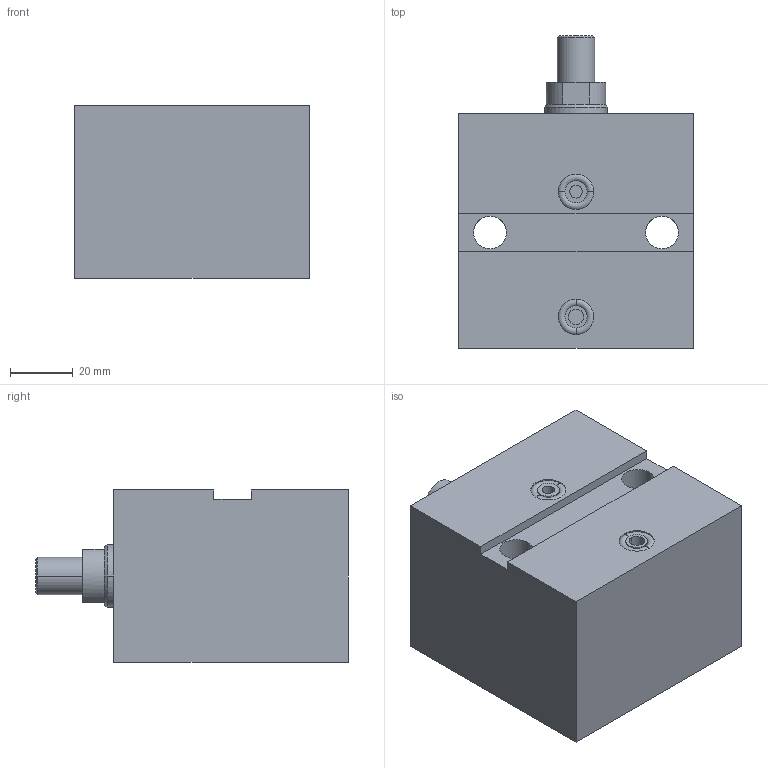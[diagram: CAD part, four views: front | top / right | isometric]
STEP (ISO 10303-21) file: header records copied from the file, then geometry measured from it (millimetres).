
FILE_DESCRIPTION (( 'STEP AP203' ), '1' );
FILE_NAME ('GERMA_Blockzylinder_604-032-025-A.STEP', '2016-01-24T16:05:46', ( '' ), ( '' ), 'SwSTEP 2.0', 'SolidWorks 2015', '' );
FILE_SCHEMA (( 'CONFIG_CONTROL_DESIGN' ));
Length unit declared in the file: millimetre
Products named in the file (3): GH-600-032_GH-604-032-025; Kolben 60x-032_Kolben DU.32-Hub25-AG; GERMA_Blockzylinder_604-032-025-A
Assembly tree (2 placements, depth 2):
  GERMA_Blockzylinder_604-032-025-A
    GH-600-032_GH-604-032-025
    Kolben 60x-032_Kolben DU.32-Hub25-AG
Bounding box: 75 x 100 x 55 mm (x, y, z)
Volume: 289572.8 mm3; surface area: 45271.1 mm2
Topology: 2 solids, 2 shells, 77 faces, 166 edges, 101 vertices
Faces by surface type: cylinder 35, plane 26, cone 12, torus 4
Entity records: 2386 total; most frequent: DIRECTION 411, CARTESIAN_POINT 345, ORIENTED_EDGE 324, AXIS2_PLACEMENT_3D 167, EDGE_CURVE 162, VERTEX_POINT 101, EDGE_LOOP 93, CIRCLE 85
